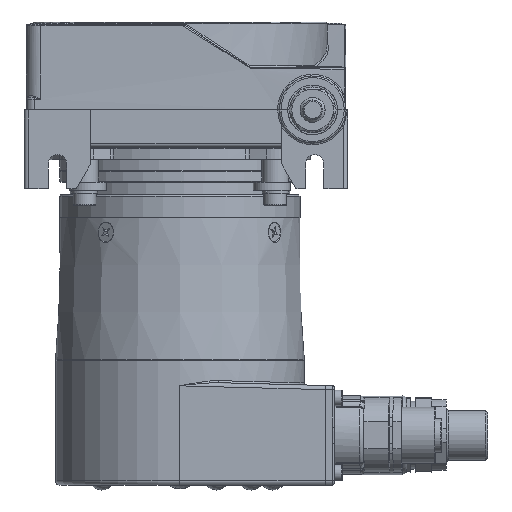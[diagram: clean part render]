
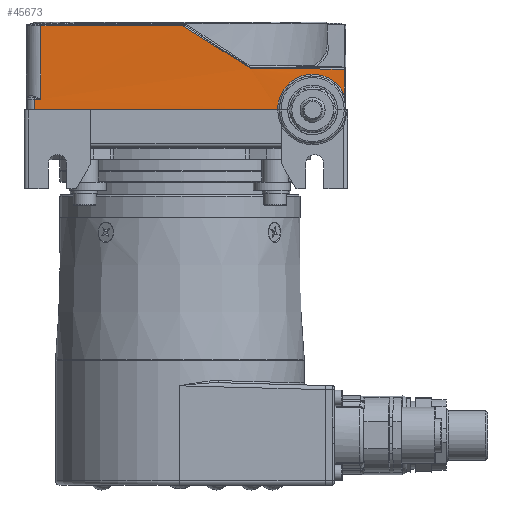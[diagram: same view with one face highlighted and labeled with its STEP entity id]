
A CAD part, left-side view. The second image highlights one B-rep face of the part: STEP entity #45673.
In plain terms, the highlighted planar face has unit normal (-1, 0, 0).
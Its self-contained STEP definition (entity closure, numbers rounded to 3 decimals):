
#1127 = ORIENTED_EDGE ( 'NONE', *, *, #4236, .F. ) ;
#1368 = ORIENTED_EDGE ( 'NONE', *, *, #23404, .F. ) ;
#2133 = CARTESIAN_POINT ( 'NONE',  ( -37., 33.5, 30.3 ) ) ;
#2163 = VECTOR ( 'NONE', #5656, 1000. ) ;
#2957 = CARTESIAN_POINT ( 'NONE',  ( -37., -37., 31.2 ) ) ;
#4236 = EDGE_CURVE ( 'NONE', #38462, #10668, #8379, .T. ) ;
#4458 = LINE ( 'NONE', #10135, #14860 ) ;
#4554 = CARTESIAN_POINT ( 'NONE',  ( -37., -39.6, 13.778 ) ) ;
#5656 = DIRECTION ( 'NONE',  ( 0., -0.84, -0.543 ) ) ;
#6313 = VERTEX_POINT ( 'NONE', #27561 ) ;
#6414 = CARTESIAN_POINT ( 'NONE',  ( -37., -39.6, 13.778 ) ) ;
#6860 = DIRECTION ( 'NONE',  ( 0., 0., -1. ) ) ;
#7973 = CARTESIAN_POINT ( 'NONE',  ( -37., -37., 12.6 ) ) ;
#8099 = ORIENTED_EDGE ( 'NONE', *, *, #9600, .F. ) ;
#8379 = LINE ( 'NONE', #11197, #17642 ) ;
#8625 = VERTEX_POINT ( 'NONE', #24637 ) ;
#9600 = EDGE_CURVE ( 'NONE', #37617, #38462, #38755, .T. ) ;
#10135 = CARTESIAN_POINT ( 'NONE',  ( -37., 35., 31.2 ) ) ;
#10305 = AXIS2_PLACEMENT_3D ( 'NONE', #2957, #30487, #6860 ) ;
#10668 = VERTEX_POINT ( 'NONE', #18925 ) ;
#11197 = CARTESIAN_POINT ( 'NONE',  ( -37., 35., 30.3 ) ) ;
#11821 = ORIENTED_EDGE ( 'NONE', *, *, #39508, .F. ) ;
#12690 = EDGE_LOOP ( 'NONE', ( #40860, #24324, #11821, #46885, #1127, #8099, #1368, #23311, #35976 ) ) ;
#13430 = DIRECTION ( 'NONE',  ( 0., -1., 0. ) ) ;
#14847 = EDGE_CURVE ( 'NONE', #43895, #49948, #23501, .T. ) ;
#14860 = VECTOR ( 'NONE', #41642, 1000. ) ;
#17538 = CARTESIAN_POINT ( 'NONE',  ( -37., -0.655, 30.3 ) ) ;
#17642 = VECTOR ( 'NONE', #46576, 1000. ) ;
#17740 = CARTESIAN_POINT ( 'NONE',  ( -37., -37., 19.8 ) ) ;
#18546 = VECTOR ( 'NONE', #39515, 1000. ) ;
#18726 = CARTESIAN_POINT ( 'NONE',  ( -37., 33.5, 12.6 ) ) ;
#18925 = CARTESIAN_POINT ( 'NONE',  ( -37., -0.655, 30.3 ) ) ;
#19383 = DIRECTION ( 'NONE',  ( 0., 0., 1. ) ) ;
#22769 = DIRECTION ( 'NONE',  ( 0., 1., 0. ) ) ;
#23311 = ORIENTED_EDGE ( 'NONE', *, *, #48925, .F. ) ;
#23404 = EDGE_CURVE ( 'NONE', #36891, #37617, #39507, .T. ) ;
#23501 =( BOUNDED_CURVE ( )  B_SPLINE_CURVE ( 3, ( #4554, #28146, #32052, #39987 ),
 .UNSPECIFIED., .F., .F. ) 
 B_SPLINE_CURVE_WITH_KNOTS ( ( 4, 4 ),
 ( 0., 1. ),
 .UNSPECIFIED. ) 
 CURVE ( )  GEOMETRIC_REPRESENTATION_ITEM ( )  RATIONAL_B_SPLINE_CURVE ( ( 1., 0.471, 0.471, 1. ) ) 
 REPRESENTATION_ITEM ( '' )  );
#24324 = ORIENTED_EDGE ( 'NONE', *, *, #34212, .F. ) ;
#24637 = CARTESIAN_POINT ( 'NONE',  ( -37., -39.6, 19.8 ) ) ;
#24825 = LINE ( 'NONE', #17740, #45805 ) ;
#24997 = CARTESIAN_POINT ( 'NONE',  ( -37., 35., 10. ) ) ;
#25258 = FACE_OUTER_BOUND ( 'NONE', #12690, .T. ) ;
#25370 = EDGE_CURVE ( 'NONE', #49948, #30040, #29437, .T. ) ;
#27561 = CARTESIAN_POINT ( 'NONE',  ( -36.787, -16.959, 20.06 ) ) ;
#28146 = CARTESIAN_POINT ( 'NONE',  ( -37., -34.646, 24.302 ) ) ;
#29437 = LINE ( 'NONE', #38451, #30691 ) ;
#30040 = VERTEX_POINT ( 'NONE', #24997 ) ;
#30487 = DIRECTION ( 'NONE',  ( 1., 0., 0. ) ) ;
#30691 = VECTOR ( 'NONE', #22769, 1000. ) ;
#32052 = CARTESIAN_POINT ( 'NONE',  ( -37., -23.325, 21.628 ) ) ;
#34009 = VECTOR ( 'NONE', #41547, 1000. ) ;
#34212 = EDGE_CURVE ( 'NONE', #8625, #43895, #35261, .T. ) ;
#35025 = CARTESIAN_POINT ( 'NONE',  ( -37., 33.5, 31.2 ) ) ;
#35261 = LINE ( 'NONE', #49546, #34009 ) ;
#35702 = CARTESIAN_POINT ( 'NONE',  ( -37., 35., 12.6 ) ) ;
#35976 = ORIENTED_EDGE ( 'NONE', *, *, #25370, .F. ) ;
#36891 = VERTEX_POINT ( 'NONE', #35702 ) ;
#37516 = VECTOR ( 'NONE', #19383, 1000. ) ;
#37617 = VERTEX_POINT ( 'NONE', #18726 ) ;
#38061 = PLANE ( 'NONE',  #10305 ) ;
#38451 = CARTESIAN_POINT ( 'NONE',  ( -37., -37., 10. ) ) ;
#38462 = VERTEX_POINT ( 'NONE', #2133 ) ;
#38755 = LINE ( 'NONE', #35025, #37516 ) ;
#39507 = LINE ( 'NONE', #7973, #18546 ) ;
#39508 = EDGE_CURVE ( 'NONE', #6313, #8625, #24825, .T. ) ;
#39515 = DIRECTION ( 'NONE',  ( 0., -1., 0. ) ) ;
#39987 = CARTESIAN_POINT ( 'NONE',  ( -37., -23.602, 10. ) ) ;
#40860 = ORIENTED_EDGE ( 'NONE', *, *, #14847, .F. ) ;
#41547 = DIRECTION ( 'NONE',  ( 0., 0., -1. ) ) ;
#41642 = DIRECTION ( 'NONE',  ( 0., 0., 1. ) ) ;
#41777 = CARTESIAN_POINT ( 'NONE',  ( -37., -23.602, 10. ) ) ;
#43895 = VERTEX_POINT ( 'NONE', #6414 ) ;
#44056 = LINE ( 'NONE', #17538, #2163 ) ;
#45673 = ADVANCED_FACE ( 'NONE', ( #25258 ), #38061, .F. ) ;
#45805 = VECTOR ( 'NONE', #13430, 1000. ) ;
#46576 = DIRECTION ( 'NONE',  ( 0., -1., 0. ) ) ;
#46885 = ORIENTED_EDGE ( 'NONE', *, *, #49821, .F. ) ;
#48925 = EDGE_CURVE ( 'NONE', #30040, #36891, #4458, .T. ) ;
#49546 = CARTESIAN_POINT ( 'NONE',  ( -37., -39.6, 31.2 ) ) ;
#49821 = EDGE_CURVE ( 'NONE', #10668, #6313, #44056, .T. ) ;
#49948 = VERTEX_POINT ( 'NONE', #41777 ) ;
